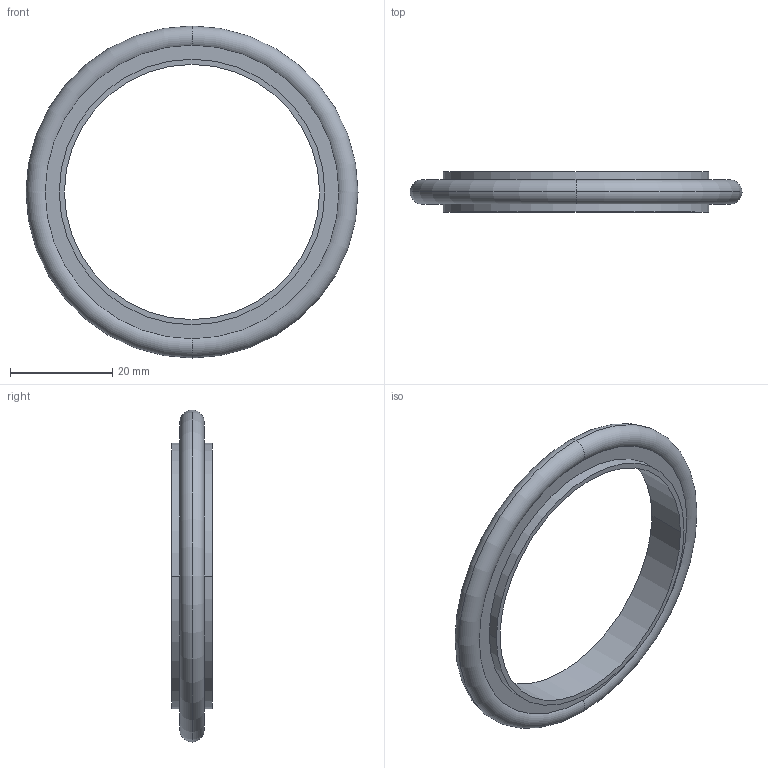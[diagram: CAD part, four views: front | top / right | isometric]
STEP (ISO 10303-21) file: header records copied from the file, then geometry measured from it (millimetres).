
FILE_DESCRIPTION(/* description */ ('Alibre Inc.'),/* implementation_level */ '2;1');
FILE_NAME(/* name */ 'export0',/* time_stamp */ '2015-02-18T13:50:02-08:00',/* author */ (''),/* organization */ (''),/* preprocessor_version */ 'ST-DEVELOPER v14',/* originating_system */ 'Alibre',/* authorisation */ '');
FILE_SCHEMA (('CONFIG_CONTROL_DESIGN'));
Length unit declared in the file: inch
Products named in the file (1): ID_1
Bounding box: 65.02 x 7.87 x 65.02 mm (x, y, z)
Volume: 6021.4 mm3; surface area: 5185.8 mm2
Topology: 1 solids, 1 shells, 14 faces, 28 edges, 18 vertices
Faces by surface type: cylinder 6, torus 4, plane 4
Entity records: 465 total; most frequent: DIRECTION 72, CARTESIAN_POINT 61, ORIENTED_EDGE 56, AXIS2_PLACEMENT_3D 37, EDGE_CURVE 28, CIRCLE 22, VERTEX_POINT 18, EDGE_LOOP 18
